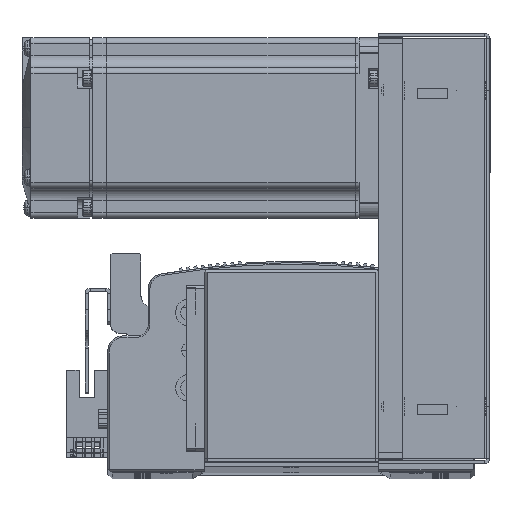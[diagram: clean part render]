
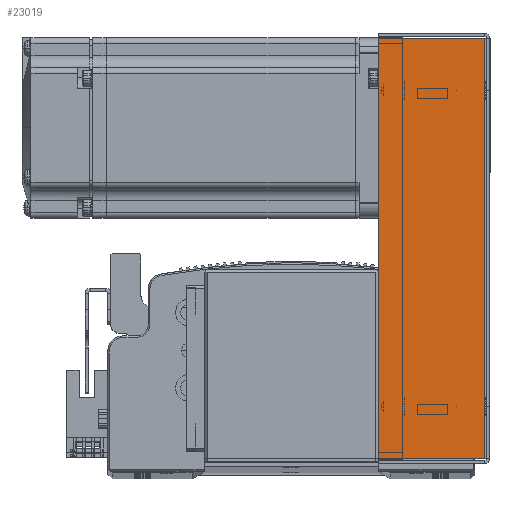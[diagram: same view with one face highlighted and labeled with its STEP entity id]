
A CAD part, top view. The second image highlights one B-rep face of the part: STEP entity #23019.
In plain terms, the highlighted planar face has unit normal (0, 0, 1) as drawn and (0, 0, -1) by its records, which use the part's own axes.
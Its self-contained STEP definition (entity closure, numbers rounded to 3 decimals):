
#5725 = CARTESIAN_POINT ( 'NONE',  ( 0., 0., -33.5 ) ) ;
#5734 = PLANE ( 'NONE',  #54271 ) ;
#5736 = DIRECTION ( 'NONE',  ( 0., -1., 0. ) ) ;
#5741 = DIRECTION ( 'NONE',  ( 0., 0., 1. ) ) ;
#23019 = ADVANCED_FACE ( 'NONE', ( #59374 ), #5734, .F. ) ;
#26725 = CARTESIAN_POINT ( 'NONE',  ( 0., 36., -33.5 ) ) ;
#26735 = DIRECTION ( 'NONE',  ( 1., 0., 0. ) ) ;
#26824 = CARTESIAN_POINT ( 'NONE',  ( 71.5, 0.737, -33.5 ) ) ;
#26835 = DIRECTION ( 'NONE',  ( 1., 0., 0. ) ) ;
#27132 = CARTESIAN_POINT ( 'NONE',  ( -69.793, 0., -33.5 ) ) ;
#27155 = DIRECTION ( 'NONE',  ( 0., 1., 0. ) ) ;
#28830 = CARTESIAN_POINT ( 'NONE',  ( 69.793, 0., -33.5 ) ) ;
#28836 = DIRECTION ( 'NONE',  ( 0., 1., 0. ) ) ;
#36986 = EDGE_LOOP ( 'NONE', ( #76759, #76766, #76756, #76767 ) ) ;
#54271 = AXIS2_PLACEMENT_3D ( 'NONE', #5725, #5741, #5736 ) ;
#59374 = FACE_OUTER_BOUND ( 'NONE', #36986, .T. ) ;
#66161 = CARTESIAN_POINT ( 'NONE',  ( 69.793, 0.737, -33.5 ) ) ;
#66255 = CARTESIAN_POINT ( 'NONE',  ( 69.793, 36., -33.5 ) ) ;
#66271 = CARTESIAN_POINT ( 'NONE',  ( -69.793, 36., -33.5 ) ) ;
#66302 = CARTESIAN_POINT ( 'NONE',  ( -69.793, 0.737, -33.5 ) ) ;
#67195 = VECTOR ( 'NONE', #26735, 1000. ) ;
#67221 = VECTOR ( 'NONE', #28836, 1000. ) ;
#67225 = LINE ( 'NONE', #27132, #67246 ) ;
#67234 = LINE ( 'NONE', #28830, #67221 ) ;
#67246 = VECTOR ( 'NONE', #27155, 1000. ) ;
#67249 = LINE ( 'NONE', #26725, #67195 ) ;
#67297 = VECTOR ( 'NONE', #26835, 1000. ) ;
#67315 = LINE ( 'NONE', #26824, #67297 ) ;
#76756 = ORIENTED_EDGE ( 'NONE', *, *, #81049, .T. ) ;
#76759 = ORIENTED_EDGE ( 'NONE', *, *, #81076, .F. ) ;
#76766 = ORIENTED_EDGE ( 'NONE', *, *, #81032, .T. ) ;
#76767 = ORIENTED_EDGE ( 'NONE', *, *, #81014, .F. ) ;
#81014 = EDGE_CURVE ( 'NONE', #96239, #96359, #67234, .T. ) ;
#81032 = EDGE_CURVE ( 'NONE', #96347, #96349, #67225, .T. ) ;
#81049 = EDGE_CURVE ( 'NONE', #96349, #96359, #67249, .T. ) ;
#81076 = EDGE_CURVE ( 'NONE', #96347, #96239, #67315, .T. ) ;
#96239 = VERTEX_POINT ( 'NONE', #66161 ) ;
#96347 = VERTEX_POINT ( 'NONE', #66302 ) ;
#96349 = VERTEX_POINT ( 'NONE', #66271 ) ;
#96359 = VERTEX_POINT ( 'NONE', #66255 ) ;
